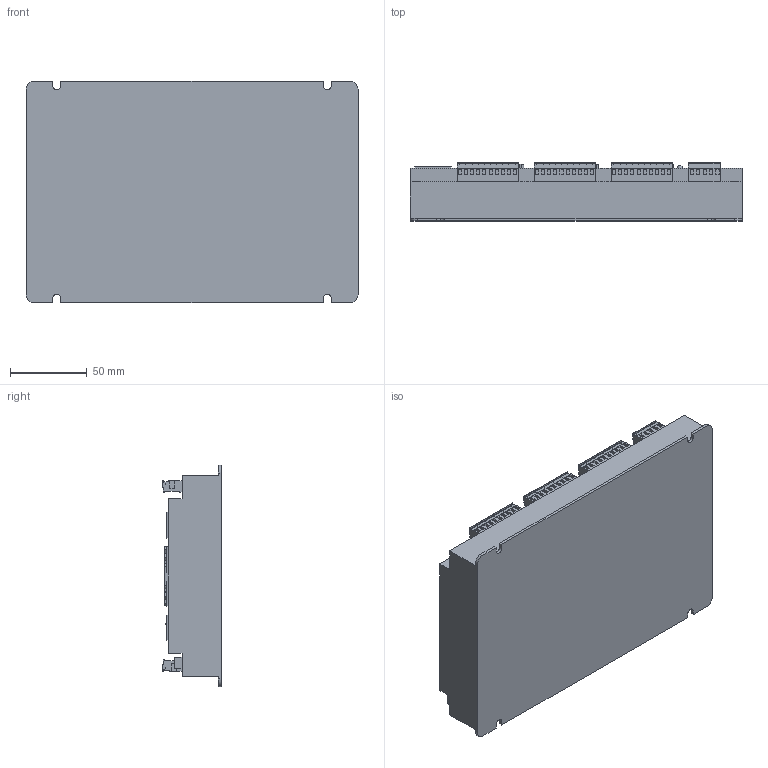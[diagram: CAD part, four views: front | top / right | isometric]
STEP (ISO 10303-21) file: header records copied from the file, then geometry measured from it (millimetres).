
FILE_DESCRIPTION (( 'STEP AP203' ), '1' );
FILE_NAME ('zmc420scan.STEP', '2022-07-25T07:34:24', ( '' ), ( '' ), 'SwSTEP 2.0', 'SolidWorks 2019', '' );
FILE_SCHEMA (( 'CONFIG_CONTROL_DESIGN' ));
Length unit declared in the file: millimetre
Products named in the file (1): zmc420scan
Bounding box: 216 x 37.95 x 144 mm (x, y, z)
Volume: 941298.5 mm3; surface area: 101704.1 mm2
Topology: 1 solids, 1 shells, 1592 faces, 3740 edges, 2496 vertices
Faces by surface type: plane 996, cylinder 592, sphere 4
Entity records: 45803 total; most frequent: DIRECTION 8112, CARTESIAN_POINT 7809, ORIENTED_EDGE 7456, EDGE_CURVE 3728, AXIS2_PLACEMENT_3D 2791, VECTOR 2530, LINE 2530, VERTEX_POINT 2488
